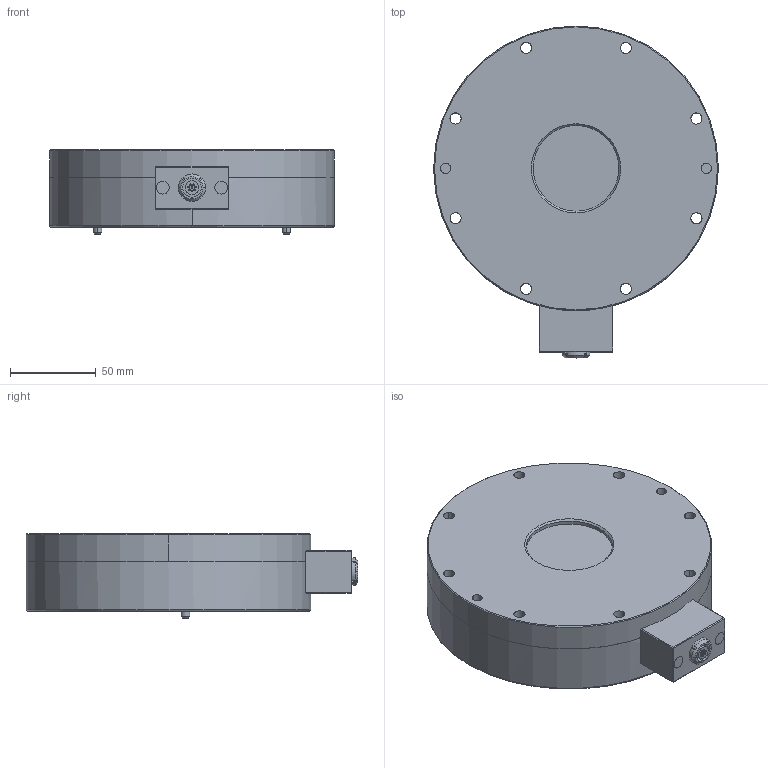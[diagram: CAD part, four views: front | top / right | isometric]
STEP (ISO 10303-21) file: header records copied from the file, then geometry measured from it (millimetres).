
FILE_DESCRIPTION((''),'2;1');
FILE_NAME('3635D1B-00_ASM_72_ASM','2020-11-25T16:36:40',('lenovo'),(''),'CREO PARAMETRIC BY PTC INC, 2016390','CREO PARAMETRIC BY PTC INC, 2016390','');
FILE_SCHEMA(('CONFIG_CONTROL_DESIGN'));
Length unit declared in the file: millimetre
Products named in the file (19): 3635D1B-15_445; 3635D1B-10_ASM_98_ASM; 3635D1B-24_207; 5000524_30; 3635D1B-25_ASM_44_ASM; 3635D1B-31_74; 5000287_65; LEMO_ECG_1B_308_CLN_5; 3635D2B-26_7; 5000393_65; 3635D1B-01_ASM_220_ASM; 3635D1B-21_116; 5000433_30; 5000280_30; 3635D1B-22_ASM_15_ASM; 5000604_65; 3635D1B-FILLER3_6; 3635D1B-FILLER4_3; 3635D1B-00_ASM_72_ASM
Assembly tree (38 placements, depth 4):
  3635D1B-00_ASM_72_ASM
    3635D1B-01_ASM_220_ASM
      3635D1B-10_ASM_98_ASM
        3635D1B-15_445
      3635D1B-25_ASM_44_ASM
        3635D1B-24_207
        5000524_30  x2
      3635D1B-31_74
      5000287_65  x2
      LEMO_ECG_1B_308_CLN_5
      3635D2B-26_7
      5000393_65  x2
    3635D1B-22_ASM_15_ASM
      3635D1B-21_116
      5000433_30  x2
      5000280_30  x2
    5000604_65  x8
    3635D1B-FILLER3_6  x8
    3635D1B-FILLER4_3  x2
Bounding box: 166 x 193.5 x 49 mm (x, y, z)
Volume: 977748.5 mm3; surface area: 194747.6 mm2
Topology: 34 solids, 74 shells, 787 faces, 1827 edges, 1208 vertices
Faces by surface type: cylinder 386, plane 287, cone 112, torus 2
Entity records: 17478 total; most frequent: CARTESIAN_POINT 3644, DIRECTION 3133, ORIENTED_EDGE 2438, AXIS2_PLACEMENT_3D 1308, EDGE_CURVE 1281, VERTEX_POINT 864, EDGE_LOOP 719, CIRCLE 672
